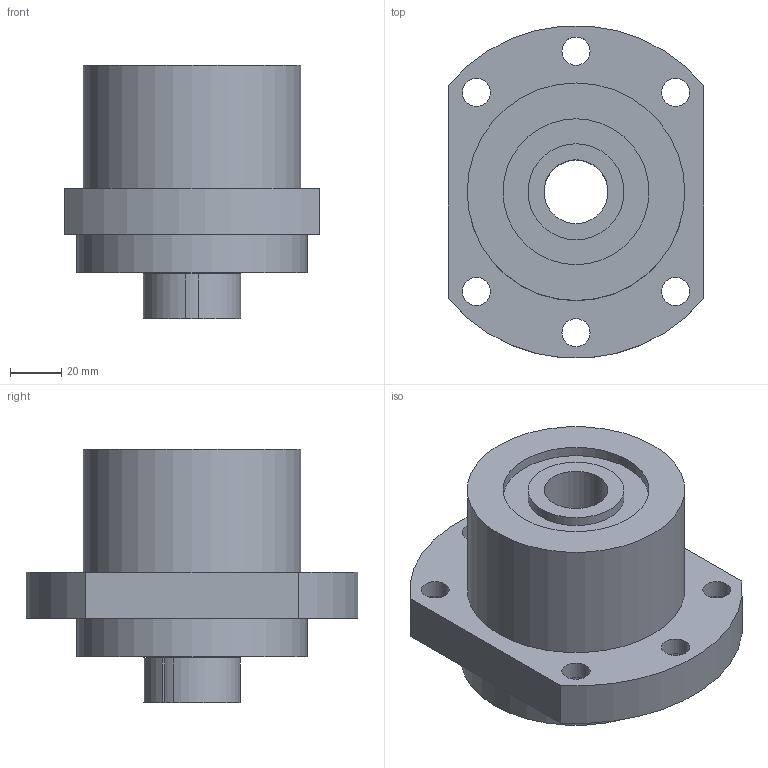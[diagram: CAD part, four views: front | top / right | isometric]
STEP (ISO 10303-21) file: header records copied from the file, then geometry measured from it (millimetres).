
FILE_DESCRIPTION(/* description */ (''),/* implementation_level */ '2;1');
FILE_NAME(/* name */ 'C:\Users\tenki620635\Desktop\官網\圖面\軸承座\3D\setp檔\WBK25 DFD.stp',/* time_stamp */ '2020-12-21T10:01:38+08:00',/* author */ ('tenki620635'),/* organization */ (''),/* preprocessor_version */ 'ST-DEVELOPER v15.2',/* originating_system */ 'Autodesk Inventor 2014',/* authorisation */ '');
FILE_SCHEMA (('AUTOMOTIVE_DESIGN { 1 0 10303 214 3 1 1 }'));
Length unit declared in the file: millimetre
Products named in the file (1): WBK25 DFD-Atype
Bounding box: 100 x 129.59 x 99 mm (x, y, z)
Volume: 515634.2 mm3; surface area: 63215 mm2
Topology: 1 solids, 1 shells, 52 faces, 108 edges, 72 vertices
Faces by surface type: cylinder 28, plane 24
Full cylindrical faces by diameter (mm): 11 x6, 17.5 x6, 25 x1, 33 x1, 37.5 x2, 57 x2, 85 x1, 90 x1
Entity records: 1357 total; most frequent: DIRECTION 250, CARTESIAN_POINT 213, ORIENTED_EDGE 176, AXIS2_PLACEMENT_3D 109, EDGE_LOOP 100, EDGE_CURVE 88, VERTEX_POINT 72, FACE_BOUND 56
